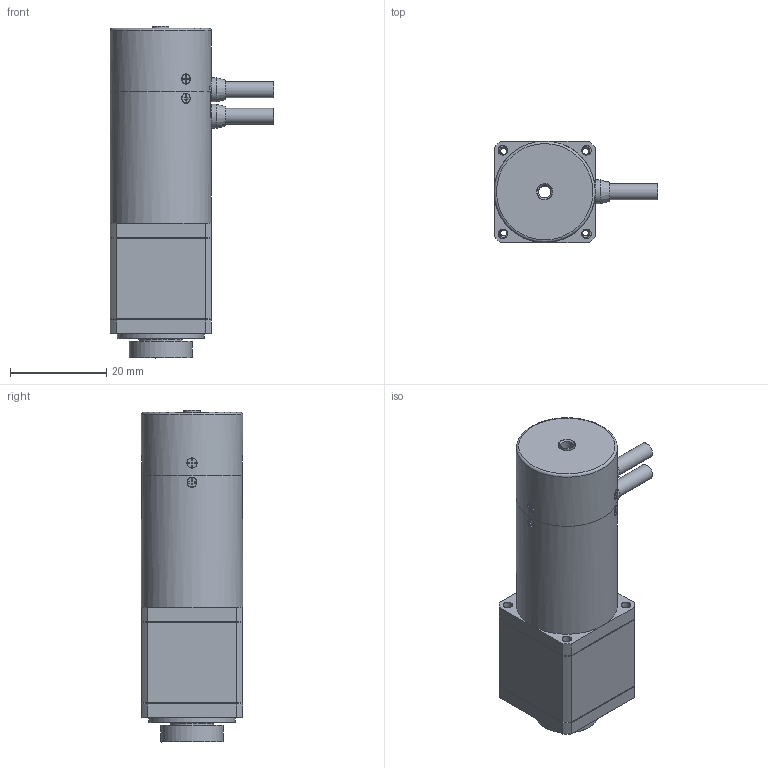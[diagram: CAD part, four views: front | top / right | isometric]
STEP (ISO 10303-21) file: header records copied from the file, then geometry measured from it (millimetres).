
FILE_DESCRIPTION(('STEP AP203'),'1');
FILE_NAME('MDH-2018-G09SH.stp','2020-11-09T01:01:15',(' '),(' '),'Spatial InterOp 3D',' ',' ');
FILE_SCHEMA(('CONFIG_CONTROL_DESIGN'));
Length unit declared in the file: millimetre
Products named in the file (10): MDH-2018-G09SH; タップネジ M1.4X2.2; サラコネジ M1.4X2.5; 3芯屈曲ケーブル(3.3)0.3M-TE; ケーブル; ブッシュ; 14芯屈曲ケーブル(3.3)0.3-HRS
Assembly tree (13 placements, depth 3):
  MDH-2018-G09SH
    MDH-2018-G09SH
    タップネジ M1.4X2.2  x3
    サラコネジ M1.4X2.5  x3
    3芯屈曲ケーブル(3.3)0.3M-TE
      ケーブル
      ブッシュ
    14芯屈曲ケーブル(3.3)0.3-HRS
      ケーブル
      ブッシュ
Bounding box: 34 x 21 x 68.9 mm (x, y, z)
Volume: 24271.9 mm3; surface area: 10310.8 mm2
Topology: 11 solids, 14 shells, 408 faces, 963 edges, 602 vertices
Faces by surface type: plane 215, cylinder 115, cone 71, torus 4, bspline 3
Full cylindrical faces by diameter (mm): 1.25 x8, 1.4 x6, 1.5 x3, 1.6 x6, 2 x14, 2.1 x3, 2.6 x3, 3.3 x4, 3.4 x1, 3.9 x1, 4 x2, 5 x2, 6 x1, 8 x1, 9 x1, 9.2 x1, 12.8 x1, 13 x1, 14 x1, 18 x3, 19.4 x2, 19.5 x3, 20 x1, 21 x2
Entity records: 10071 total; most frequent: CARTESIAN_POINT 2314, DIRECTION 1488, ORIENTED_EDGE 1226, EDGE_CURVE 613, AXIS2_PLACEMENT_3D 610, EDGE_LOOP 506, VERTEX_POINT 439, FACE_OUTER_BOUND 406
